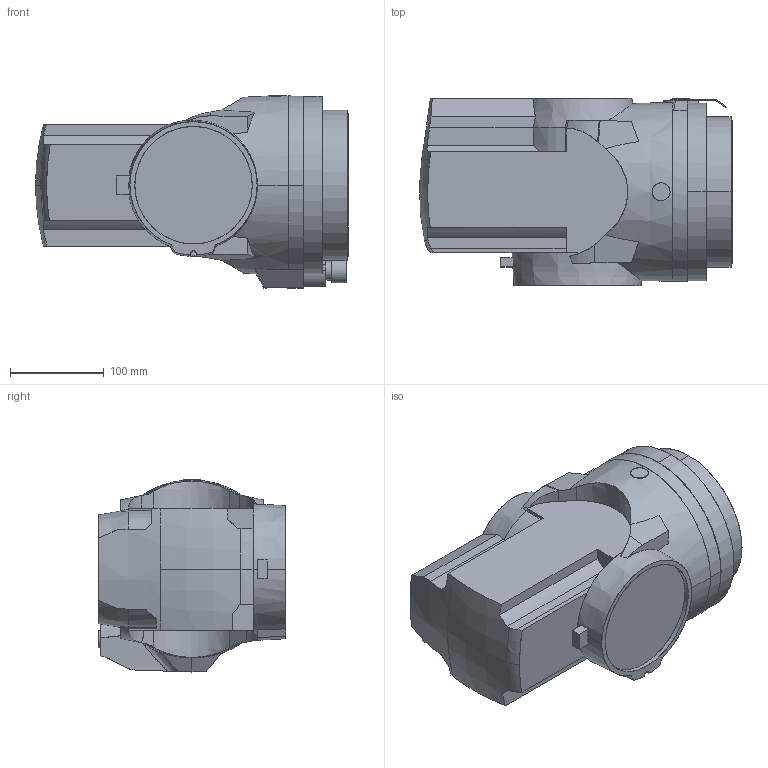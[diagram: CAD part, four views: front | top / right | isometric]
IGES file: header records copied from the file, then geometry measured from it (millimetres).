
Start section: SolidWorks IGES file using analytic representation for surfaces
Global section: file name: B:\Robotics\SEROP_PROJ\Product Development\DevelopmentProjects\RobCal\Design\CAD simuleringsmodeller\Till_RobotStudio\IRB6700-HL\IRB6700_235-265_IRC5_rev02\IRB6700_235-265_IRC5_rev02_IGES_j\IRB6700_235-265_IRC5_rev04_LINK05_CAD.IGS; native system: SolidWorks 2014; preprocessor: SolidWorks 2014; author: SEEMTHE; date: 160127.112407; units: millimetre
Bounding box: 333.25 x 200 x 204.47 mm (x, y, z)
Surface area: 279670.2 mm2 (no closed solid volume)
Topology: 0 solids, 0 shells, 245 faces, 3431 edges, 3431 vertices
Faces by surface type: bspline 186, revolution 59
